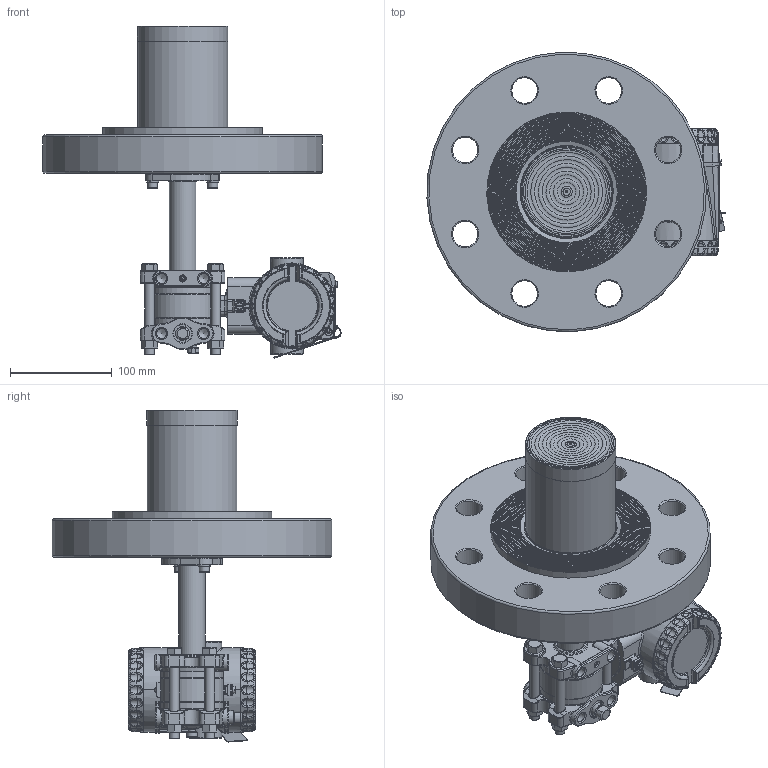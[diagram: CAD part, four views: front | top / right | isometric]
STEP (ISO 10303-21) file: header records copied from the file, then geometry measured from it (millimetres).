
FILE_DESCRIPTION(/* description */ (''),/* implementation_level */ '2;1');
FILE_NAME(/* name */ 'F:\Area\Desenvolvimento_2\Projects\Sensor\projetos\LD400-3d\dimensionais 3D clientes\LD400L\LD400L 4-600 RF ext 100 ref 1-4NPT purga acima.stp',/* time_stamp */ '2023-02-23T16:57:25-03:00',/* author */ ('inventor02'),/* organization */ (''),/* preprocessor_version */ 'ST-DEVELOPER v17',/* originating_system */ 'Autodesk Inventor 2019',/* authorisation */ '');
FILE_SCHEMA (('CONFIG_CONTROL_DESIGN'));
Products named in the file (41): LD30XL 4-600 RF ext 100 ref 1-4NPT purga acima; 204-0301-L-4 600 RF ext 100 purga acima; nivel fx3 com baixa diferencial 1-4NPT purga acima; involucro fx0-3 apos a usinagem final; flange diferencial std purga; 101-C-7484-01 flange selo nivel VR; 201-A-0504-tubo união teste 1; bujao 1-4NPT; Sangria; Porca 3-8 x 16 UNC; Paraf. 3-8 x 16 UNC; adaptação tubo x flanges 1-1-2 a 4pol; 101-B-0161-anel cortado do tubo - teste1; 101-B-0162-flange fixação tubo; ANSI B18.3.1M - M6x1 x 16; DIN 127 - A 6; flange 4 600 ext 100; 101-C-0132-09; 096-B-0212-15; 101-B-7702-02 ext 4-100; Carcaça 400 com tampas e plaqueta sem letras; 101-D-0845-05 carcaça LD400 sem letras; 101-B-3614-03-tampa 400 sem letras; Tampa visor 400 montada sem letras; 101-B-3612-05 tampa visor 400 sem letras; 101-A-6107; oring 2034; 00034775-0; WHW_250; DIN 915 - M6 x 10; Chapa aterramento externo; 201-A-1771-02 inserto terra recartilhado; AS 1969 - ST4,2; ISO 1207 - M4 x 8; ANSI B18.3.1M - M4x0,7 x 8; Subconjunto plaqueta 400; plaqueta 400 em branco; Parafuso da Plaqueta; Rebite da Plaqueta; 096-A-0169-03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
Assembly tree (50 placements, depth 4):
  LD30XL 4-600 RF ext 100 ref 1-4NPT purga acima
    204-0301-L-4 600 RF ext 100 purga acima
      nivel fx3 com baixa diferencial 1-4NPT purga acima
        involucro fx0-3 apos a usinagem final
        flange diferencial std purga
        101-C-7484-01 flange selo nivel VR
        201-A-0504-tubo união teste 1
        DIN 915 - M6 x 10
        bujao 1-4NPT
        Sangria
        Porca 3-8 x 16 UNC  x4
        Paraf. 3-8 x 16 UNC  x4
      adaptação tubo x flanges 1-1-2 a 4pol
        101-B-0161-anel cortado do tubo - teste1
        101-B-0162-flange fixação tubo
        ANSI B18.3.1M - M6x1 x 16  x2
        DIN 127 - A 6  x2
      flange 4 600 ext 100
        101-C-0132-09
        096-B-0212-15
        101-B-7702-02 ext 4-100
    Carcaça 400 com tampas e plaqueta sem letras
      101-D-0845-05 carcaça LD400 sem letras
      101-B-3614-03-tampa 400 sem letras
      Tampa visor 400 montada sem letras
        101-B-3612-05 tampa visor 400 sem letras
        101-A-6107
        oring 2034
        00034775-0
        WHW_250
      DIN 915 - M6 x 10
      Chapa aterramento externo
      201-A-1771-02 inserto terra recartilhado
      AS 1969 - ST4,2
      ISO 1207 - M4 x 8
      ANSI B18.3.1M - M4x0,7 x 8  x2
      Subconjunto plaqueta 400
        plaqueta 400 em branco
        Parafuso da Plaqueta
        Rebite da Plaqueta
        096-A-0169-03
        101-A-0502-01
Bounding box: 293.12 x 274.74 x 326.42 mm (x, y, z)
Volume: 3065691.4 mm3; surface area: 496393.3 mm2
Topology: 43 solids, 43 shells, 2834 faces, 6835 edges, 4112 vertices
Faces by surface type: plane 751, cylinder 668, bspline 604, torus 505, cone 230, sphere 76
Full cylindrical faces by diameter (mm): 2 x4, 2.1 x1, 2.2 x1, 2.459 x3, 2.5 x1, 2.7 x1, 2.8 x1, 3 x4, 3.242 x3, 3.5 x1, 3.571 x1, 4 x5, 4.3 x2, 4.4 x1, 4.917 x4, 5 x1, 5.5 x3, 6 x6, 6.1 x2, 6.2 x1, 6.647 x1, 7 x5, 7.6 x2, 7.798 x4, 8 x1, 9.525 x4, 9.728 x6, 10 x2, 10.5 x8, 10.719 x2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
Entity records: 100416 total; most frequent: CARTESIAN_POINT 37343, DIRECTION 13070, ORIENTED_EDGE 12910, EDGE_CURVE 6455, AXIS2_PLACEMENT_3D 5618, VERTEX_POINT 3918, CIRCLE 3271, EDGE_LOOP 2907
